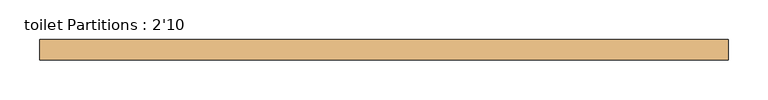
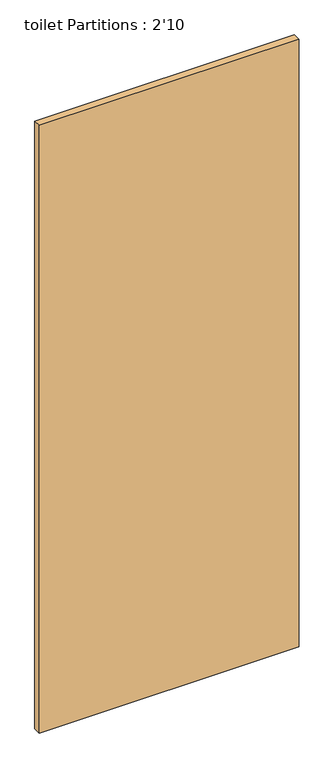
"""IFC4 building model written with IfcOpenShell, lengths in millimetres: door geometry, toilet Partitions : 2'10."""

from ifc_helpers import new_model, si_unit, origin, origin_with_axes, place, context, project, spatial, polyline, outline, extrude, source, transform, mapped, element, save


def toilet_partitions_2_10_0724d611(model_context):
    return source(origin(), model_context, "Body", "SweptSolid", [
        extrude(outline(polyline([(431.8, 0.0), (-431.8, 0.0), (-431.8, 25.4), (431.8, 25.4), (431.8, 0.0)])), origin_with_axes(), (0.0, 0.0, 1.0), 2133.6),
    ])


if __name__ == "__main__":
    model = new_model("IFC4")
    model_context = context("Model", 3, world=origin())
    ifc_project = project(units=[si_unit("LENGTHUNIT", "METRE", prefix="MILLI")], contexts=[model_context])
    site = spatial("IfcSite", under=ifc_project)
    building = spatial("IfcBuilding", under=site)
    placement = place(None, origin())
    toilet_partitions_2_10_shape = toilet_partitions_2_10_0724d611(model_context)
    element("IfcDoor", 1, ObjectType="toilet Partitions : 2'10", at=placement, inside=building, context=model_context, shape_type="MappedRepresentation", body=[
        mapped(toilet_partitions_2_10_shape, transform((0.0, 0.0, 0.0), x_axis=(1.0, 0.0, 0.0), y_axis=(0.0, 1.0, 0.0), z_axis=(0.0, 0.0, 1.0))),
    ])
    save(model, "model.ifc")
